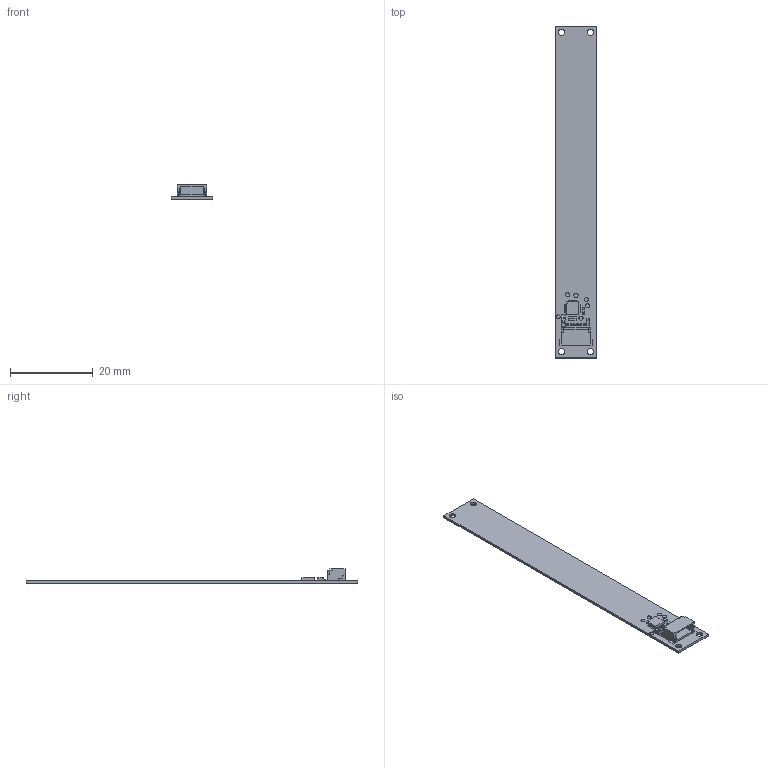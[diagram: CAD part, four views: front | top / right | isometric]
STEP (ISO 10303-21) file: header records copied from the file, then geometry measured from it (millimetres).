
FILE_DESCRIPTION(('FreeCAD Model'),'2;1');
FILE_NAME('/home/devy/MEGA/TinyCircuits/Assets/BoardsANDBoardModels_2/Wirelings/TinyCircuits-Wireling-Cap-Touch-Slider-AST1003/cad/Wireling_CAPTOUCH_AST1003_REV3-STEP.step','2020-07-23T12:51:34',('Author'),(''), 'Open CASCADE STEP processor 7.4','FreeCAD','Unknown');
FILE_SCHEMA(('AUTOMOTIVE_DESIGN { 1 0 10303 214 1 1 1 1 }'));
Products named in the file (1): Wireling_CAPTOUCH_AST1003_REV3-STEP
Bounding box: 10 x 80 x 3.5 mm (x, y, z)
Volume: 588.3 mm3; surface area: 2238.1 mm2
Topology: 117 solids, 117 shells, 1174 faces, 3238 edges, 2848 vertices
Faces by surface type: plane 1044, cylinder 98, sphere 32
Full cylindrical faces by diameter (mm): 0.14 x2, 1 x12, 1.502 x4
Entity records: 82400 total; most frequent: CARTESIAN_POINT 13701, DIRECTION 10882, LINE 7578, VECTOR 7578, ORIENTED_EDGE 5196, PCURVE 5196, DEFINITIONAL_REPRESENTATION 5196, EDGE_CURVE 2598
